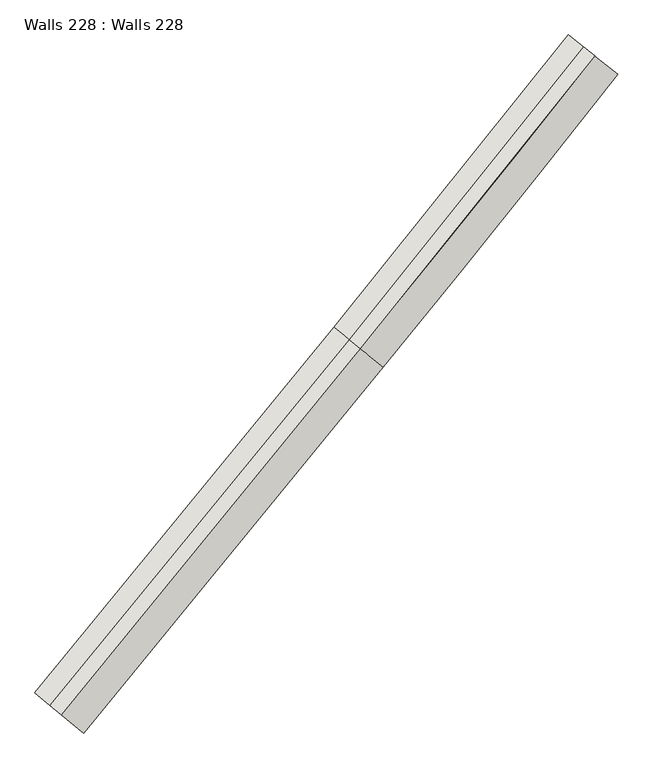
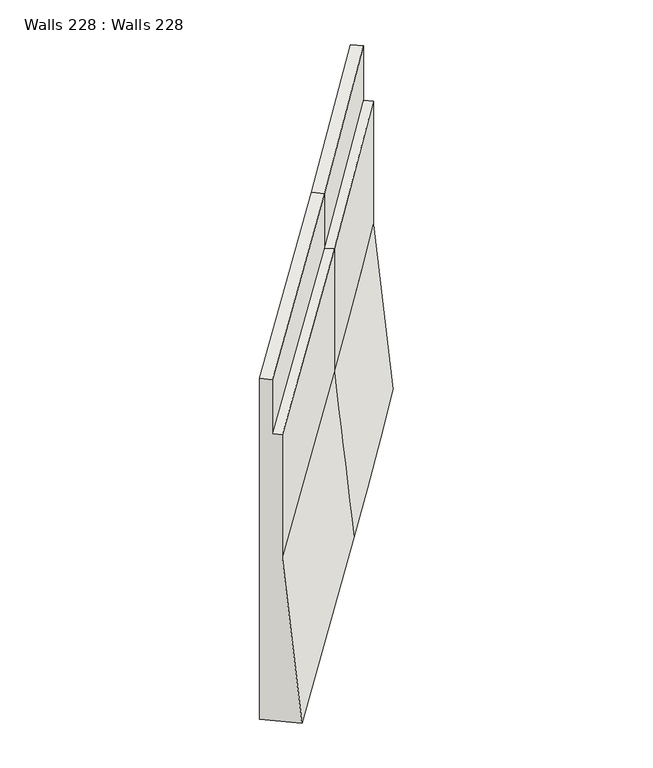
"""IFC4 building model written with IfcOpenShell, lengths in millimetres: wall geometry, Walls 228 : Walls 228."""

from ifc_helpers import new_model, si_unit, frame, origin, place, context, project, spatial, source, transform, mapped, element, save
from ifc_brep_helpers import plane_surface, spline_curve, spline_surface, advanced_brep


def walls_228_walls_228_00519d36(model_context):
    return source(origin(), model_context, "Body", "AdvancedBrep", [
        advanced_brep(
        [(416839.2164919, 292155.5476849, 646162.0), (416607.0278587, 292345.5172577, 649162.0), (416607.0278587, 292345.5172577, 651426.0), (416490.9335421, 292440.5020442, 651426.0), (416490.9335421, 292440.5020442, 652426.0), (416336.14112, 292567.1484261, 652426.0), (416336.14112, 292567.1484261, 646162.0), (419911.5253598, 295910.6500731, 646225.0), (419679.3367266, 296100.619646, 649225.0), (419679.3367266, 296100.619646, 651486.5), (419563.24241, 296195.6044324, 651486.5), (419563.24241, 296195.6044324, 652486.5), (419408.4499879, 296322.2508143, 652486.5), (419408.4499879, 296322.2508143, 646225.0), (422327.2626268, 298922.1065978, 646274.7), (421816.4558054, 299323.8776688, 646274.7), (421816.4558054, 299323.8776688, 652534.7), (421973.6271351, 299200.2558008, 652534.7), (421973.6271351, 299200.2558008, 651534.7), (422091.5056323, 299107.5393998, 651534.7), (422091.5056323, 299107.5393998, 649274.7)],
        [
            (0, 1),
            (1, 2),
            (2, 3),
            (3, 4),
            (4, 5),
            (5, 6),
            (6, 0),
            (0, 7),
            (7, 8, spline_curve(3, [(419911.5253598, 295910.6500731, 646225.0), (419834.129148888, 295973.973264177, 647225.000000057), (419756.732937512, 296037.296454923, 648224.999999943), (419679.3367266, 296100.619646, 649225.0)], [4, 4], [0.0, 9.891600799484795])),
            (8, 1),
            (8, 9, spline_curve(3, [(419679.3367266, 296100.619646, 649225.0), (419679.3367266, 296100.619646, 649978.833333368), (419679.3367266, 296100.619646, 650732.666666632), (419679.3367266, 296100.619646, 651486.5)], [4, 4], [0.0, 7.417158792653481])),
            (9, 2),
            (9, 10, spline_curve(3, [(419679.3367266, 296100.619646, 651486.5), (419640.638621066, 296132.281241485, 651486.5), (419601.940515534, 296163.942836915, 651486.5), (419563.24241, 296195.6044324, 651486.5)], [4, 4], [0.0, 0.492080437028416])),
            (10, 3),
            (10, 11, spline_curve(3, [(419563.24241, 296195.6044324, 651486.5), (419563.24241, 296195.6044324, 651819.833333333), (419563.24241, 296195.6044324, 652153.166666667), (419563.24241, 296195.6044324, 652486.5)], [4, 4], [0.0, 3.280839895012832])),
            (11, 4),
            (11, 12, spline_curve(3, [(419563.24241, 296195.6044324, 652486.5), (419511.644935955, 296237.819893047, 652486.5), (419460.047461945, 296280.035353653, 652486.5), (419408.4499879, 296322.2508143, 652486.5)], [4, 4], [0.0, 0.6561072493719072])),
            (12, 5),
            (12, 13, spline_curve(3, [(419408.4499879, 296322.2508143, 652486.5), (419408.4499879, 296322.2508143, 650399.333333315), (419408.4499879, 296322.2508143, 648312.166666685), (419408.4499879, 296322.2508143, 646225.0)], [4, 4], [0.0, 20.540518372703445])),
            (13, 6),
            (13, 7, spline_curve(3, [(419408.4499879, 296322.2508143, 646225.0), (419576.141778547, 296185.050567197, 646225.0), (419743.833569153, 296047.850320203, 646225.0), (419911.5253598, 295910.6500731, 646225.0)], [4, 4], [0.0, 2.1323485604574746])),
            (14, 15),
            (15, 16),
            (16, 17),
            (17, 18),
            (18, 19),
            (19, 20),
            (20, 14),
            (20, 8, spline_curve(3, [(422091.5056323, 299107.5393998, 649274.7), (421297.116979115, 298097.528459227, 649258.133333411), (420493.011066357, 297095.160027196, 649241.566666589), (419679.3367266, 296100.619646, 649225.0)], [4, 4], [0.0, 12.657945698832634])),
            (7, 14, spline_curve(3, [(419911.5253598, 295910.6500731, 646225.0), (420726.403777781, 296906.691359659, 646241.566666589), (421531.699215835, 297910.572143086, 646258.133333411), (422327.2626268, 298922.1065978, 646274.7)], [4, 4], [0.0, 12.657945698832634])),
            (19, 9, spline_curve(3, [(422091.5056323, 299107.5393998, 651534.7), (421297.116979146, 298097.528459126, 651518.633333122), (420493.011066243, 297095.160027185, 651502.566666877), (419679.3367266, 296100.619646, 651486.5)], [4, 4], [0.0, 12.648446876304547])),
            (18, 10, spline_curve(3, [(421973.6271351, 299200.2558008, 651534.7), (421179.82586078, 298191.006617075, 651518.63333336), (420376.314710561, 297189.394360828, 651502.56666664), (419563.24241, 296195.6044324, 651486.5)], [4, 4], [0.0, 12.64368218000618])),
            (17, 11, spline_curve(3, [(421973.6271351, 299200.2558008, 652534.7), (421179.825860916, 298191.006616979, 652518.633333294), (420376.314710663, 297189.394360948, 652502.566666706), (419563.24241, 296195.6044324, 652486.5)], [4, 4], [0.0, 12.638948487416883])),
            (16, 12, spline_curve(3, [(421816.4558054, 299323.8776688, 652534.7), (421023.437702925, 298315.644160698, 652518.633333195), (420220.719569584, 297315.040139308, 652502.566666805), (419408.4499879, 296322.2508143, 652486.5)], [4, 4], [0.0, 12.632636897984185])),
            (15, 13, spline_curve(3, [(421816.4558054, 299323.8776688, 646274.7), (421023.437702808, 298315.644160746, 646258.133333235), (420220.719569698, 297315.04013909, 646241.566666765), (419408.4499879, 296322.2508143, 646225.0)], [4, 4], [0.0, 12.626356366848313])),
        ],
        [
            plane_surface(frame((416529.6316477, 292408.8404487, 649884.2857143), z_axis=(-0.6332319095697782, -0.7739621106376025, 0.0), x_axis=(-0.07701210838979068, 0.06300893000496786, 0.9950371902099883))),
            plane_surface(frame((419795.4310432, 296005.6348595, 647725.0), z_axis=(0.7693022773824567, -0.6310887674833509, 0.09950363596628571), x_axis=(-0.07701210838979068, 0.06300893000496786, 0.9950371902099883))),
            plane_surface(frame((419679.3367266, 296100.619646, 650355.75), z_axis=(0.7739621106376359, -0.6332319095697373, 0.0), x_axis=(0.0, 0.0, 1.0))),
            plane_surface(frame((419621.2895683, 296148.1120392, 651486.5), z_axis=(-0.007895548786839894, -0.00965026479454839, 0.9999222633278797), x_axis=(-0.773962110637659, 0.633231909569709, 0.0))),
            plane_surface(frame((419563.24241, 296195.6044324, 651986.5), z_axis=(0.7739621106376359, -0.6332319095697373, 0.0), x_axis=(0.0, 0.0, 1.0))),
            plane_surface(frame((419485.8461989, 296258.9276233, 652486.5), z_axis=(-0.007895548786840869, -0.00965026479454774, 0.9999222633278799), x_axis=(-0.7739621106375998, 0.6332319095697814, 0.0))),
            plane_surface(frame((419408.4499879, 296322.2508143, 649355.75), z_axis=(-0.773962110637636, 0.6332319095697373, 0.0), x_axis=(0.0, 0.0, -1.0))),
            plane_surface(frame((419659.9876738, 296116.4504437, 646225.0), z_axis=(0.008221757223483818, 0.01004897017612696, -0.9999157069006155), x_axis=(0.7739621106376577, -0.6332319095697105, 0.0))),
            plane_surface(frame((422012.9199675, 299169.3503338, 649994.7), z_axis=(0.6182237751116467, 0.7860021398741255, 0.0), x_axis=(-0.07819580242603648, 0.0615042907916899, 0.9950390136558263))),
            spline_surface(3, 3, [[(422327.2626268, 298922.1065978, 646274.7), (421531.699215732, 297910.572143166, 646258.133333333), (420726.40377758, 296906.691359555, 646241.566666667), (419911.5253598, 295910.6500731, 646225.0)], [(422248.676961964, 298983.917531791, 647274.7), (421453.50513684, 297972.890915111, 647258.133333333), (420648.60620715, 296969.514248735, 647241.566666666), (419834.129148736, 295973.973264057, 647225.0)], [(422170.091297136, 299045.728465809, 648274.7), (421375.311057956, 298035.209687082, 648258.133333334), (420570.80863671, 297032.337137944, 648241.566666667), (419756.732937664, 296037.296455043, 648225.0)], [(422091.5056323, 299107.5393998, 649274.7), (421297.116979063, 298097.528459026, 649258.133333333), (420493.011066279, 297095.160027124, 649241.566666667), (419679.3367266, 296100.619646, 649225.0)]], [4, 4], [4, 4], [0.0, 9.891600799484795], [0.0, 12.657945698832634]),
            spline_surface(3, 3, [[(422091.5056323, 299107.5393998, 649274.7), (421297.116979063, 298097.528459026, 649258.133333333), (420493.011066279, 297095.160027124, 649241.566666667), (419679.3367266, 296100.619646, 649225.0)], [(422091.5056323, 299107.5393998, 650028.033333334), (421297.116979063, 298097.528459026, 650011.633333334), (420493.011066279, 297095.160027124, 649995.233333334), (419679.3367266, 296100.619646, 649978.833333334)], [(422091.5056323, 299107.5393998, 650781.366666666), (421297.116979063, 298097.528459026, 650765.133333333), (420493.011066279, 297095.160027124, 650748.9), (419679.3367266, 296100.619646, 650732.666666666)], [(422091.5056323, 299107.5393998, 651534.7), (421297.116979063, 298097.528459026, 651518.633333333), (420493.011066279, 297095.160027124, 651502.566666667), (419679.3367266, 296100.619646, 651486.5)]], [4, 4], [4, 4], [0.0, 7.417158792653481], [0.0, 12.648446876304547]),
            spline_surface(3, 3, [[(422091.5056323, 299107.5393998, 651534.7), (421297.116979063, 298097.528459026, 651518.633333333), (420493.011066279, 297095.160027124, 651502.566666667), (419679.3367266, 296100.619646, 651486.5)], [(422052.212799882, 299138.444866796, 651534.7), (421258.019939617, 298128.687844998, 651518.633333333), (420454.112281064, 297126.571471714, 651502.566666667), (419640.638621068, 296132.281241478, 651486.5)], [(422012.919967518, 299169.350333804, 651534.7), (421218.922900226, 298159.847230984, 651518.633333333), (420415.213495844, 297157.982916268, 651502.566666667), (419601.940515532, 296163.942836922, 651486.5)], [(421973.6271351, 299200.2558008, 651534.7), (421179.825860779, 298191.006616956, 651518.633333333), (420376.314710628, 297189.394360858, 651502.566666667), (419563.24241, 296195.6044324, 651486.5)]], [4, 4], [4, 4], [0.0, 0.492080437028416], [0.0, 12.64368218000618]),
            spline_surface(3, 3, [[(421973.6271351, 299200.2558008, 651534.7), (421179.825860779, 298191.006616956, 651518.633333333), (420376.314710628, 297189.394360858, 651502.566666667), (419563.24241, 296195.6044324, 651486.5)], [(421973.6271351, 299200.2558008, 651868.033333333), (421179.825860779, 298191.006616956, 651851.966666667), (420376.314710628, 297189.394360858, 651835.9), (419563.24241, 296195.6044324, 651819.833333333)], [(421973.6271351, 299200.2558008, 652201.366666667), (421179.825860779, 298191.006616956, 652185.3), (420376.314710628, 297189.394360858, 652169.233333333), (419563.24241, 296195.6044324, 652153.166666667)], [(421973.6271351, 299200.2558008, 652534.7), (421179.825860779, 298191.006616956, 652518.633333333), (420376.314710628, 297189.394360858, 652502.566666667), (419563.24241, 296195.6044324, 652486.5)]], [4, 4], [4, 4], [0.0, 3.280839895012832], [0.0, 12.638948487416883]),
            spline_surface(3, 3, [[(421973.6271351, 299200.2558008, 652534.7), (421179.825860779, 298191.006616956, 652518.633333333), (420376.314710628, 297189.394360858, 652502.566666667), (419563.24241, 296195.6044324, 652486.5)], [(421921.236691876, 299241.463090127, 652534.7), (421127.696474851, 298232.552464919, 652518.633333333), (420324.449663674, 297231.276286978, 652502.566666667), (419511.644935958, 296237.819893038, 652486.5)], [(421868.846248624, 299282.670379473, 652534.7), (421075.567088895, 298274.0983129, 652518.633333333), (420272.584616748, 297273.158213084, 652502.566666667), (419460.047461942, 296280.035353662, 652486.5)], [(421816.4558054, 299323.8776688, 652534.7), (421023.437702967, 298315.644160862, 652518.633333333), (420220.719569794, 297315.040139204, 652502.566666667), (419408.4499879, 296322.2508143, 652486.5)]], [4, 4], [4, 4], [0.0, 0.6561072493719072], [0.0, 12.632636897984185]),
            spline_surface(3, 3, [[(421816.4558054, 299323.8776688, 652534.7), (421023.437702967, 298315.644160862, 652518.633333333), (420220.719569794, 297315.040139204, 652502.566666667), (419408.4499879, 296322.2508143, 652486.5)], [(421816.4558054, 299323.8776688, 650448.033333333), (421023.437702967, 298315.644160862, 650431.8), (420220.719569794, 297315.040139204, 650415.566666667), (419408.4499879, 296322.2508143, 650399.333333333)], [(421816.4558054, 299323.8776688, 648361.366666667), (421023.437702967, 298315.644160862, 648344.966666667), (420220.719569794, 297315.040139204, 648328.566666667), (419408.4499879, 296322.2508143, 648312.166666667)], [(421816.4558054, 299323.8776688, 646274.7), (421023.437702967, 298315.644160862, 646258.133333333), (420220.719569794, 297315.040139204, 646241.566666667), (419408.4499879, 296322.2508143, 646225.0)]], [4, 4], [4, 4], [0.0, 20.540518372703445], [0.0, 12.626356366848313]),
            spline_surface(3, 3, [[(421816.4558054, 299323.8776688, 646274.7), (421023.437702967, 298315.644160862, 646258.133333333), (420220.719569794, 297315.040139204, 646241.566666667), (419408.4499879, 296322.2508143, 646225.0)], [(421986.724745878, 299189.953978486, 646274.7), (421192.858207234, 298180.620154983, 646258.133333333), (420389.280972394, 297178.923879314, 646241.566666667), (419576.141778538, 296185.050567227, 646225.0)], [(422156.993686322, 299056.030288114, 646274.7), (421362.278711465, 298045.596149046, 646258.133333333), (420557.84237498, 297042.807619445, 646241.566666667), (419743.833569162, 296047.850320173, 646225.0)], [(422327.2626268, 298922.1065978, 646274.7), (421531.699215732, 297910.572143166, 646258.133333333), (420726.40377758, 296906.691359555, 646241.566666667), (419911.5253598, 295910.6500731, 646225.0)]], [4, 4], [4, 4], [0.0, 2.1323485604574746], [0.0, 12.646900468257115]),
        ],
        [
            (0, [[1, 2, 3, 4, 5, 6, 7]]),
            (1, [[-1, 8, 9, 10]]),
            (2, [[-2, -10, 11, 12]]),
            (3, [[-3, -12, 13, 14]]),
            (4, [[-4, -14, 15, 16]]),
            (5, [[-5, -16, 17, 18]]),
            (6, [[-6, -18, 19, 20]]),
            (7, [[-7, -20, 21, -8]]),
            (8, [[22, 23, 24, 25, 26, 27, 28]]),
            (9, [[-28, 29, -9, 30]]),
            (10, [[-27, 31, -11, -29]]),
            (11, [[-26, 32, -13, -31]]),
            (12, [[-25, 33, -15, -32]]),
            (13, [[-24, 34, -17, -33]]),
            (14, [[-23, 35, -19, -34]]),
            (15, [[-22, -30, -21, -35]]),
        ],
    ),
    ])


if __name__ == "__main__":
    model = new_model("IFC4")
    model_context = context("Model", 3, world=origin())
    ifc_project = project(units=[si_unit("LENGTHUNIT", "METRE", prefix="MILLI")], contexts=[model_context])
    site = spatial("IfcSite", under=ifc_project)
    building = spatial("IfcBuilding", under=site)
    placement = place(None, origin())
    walls_228_walls_228_shape = walls_228_walls_228_00519d36(model_context)
    element("IfcWall", 1, ObjectType="Walls 228 : Walls 228", at=placement, inside=building, context=model_context, shape_type="MappedRepresentation", body=[
        mapped(walls_228_walls_228_shape, transform((0.0, 0.0, 0.0), x_axis=(1.0, 0.0, 0.0), y_axis=(0.0, 1.0, 0.0), z_axis=(0.0, 0.0, 1.0))),
    ])
    save(model, "model.ifc")
